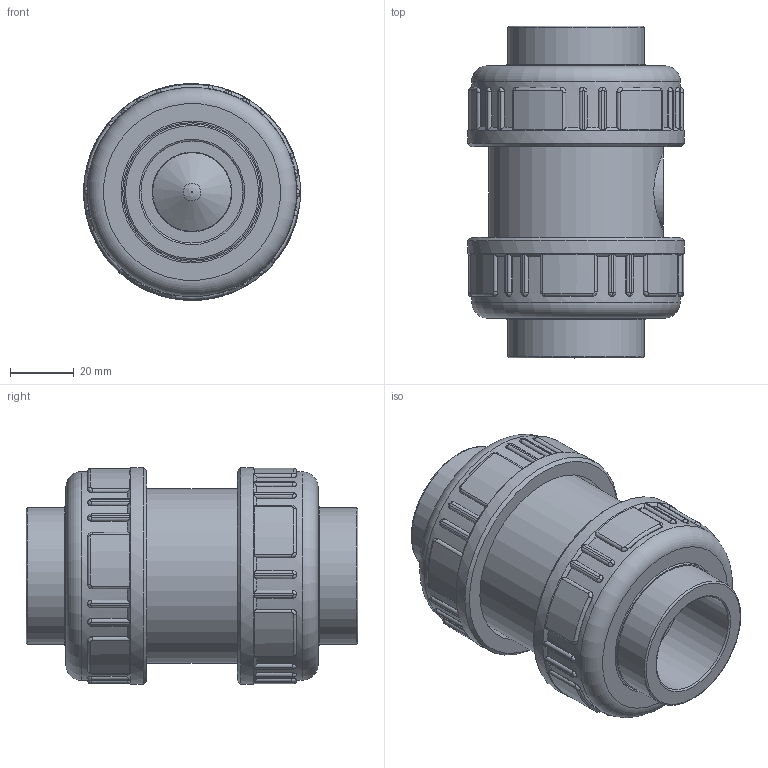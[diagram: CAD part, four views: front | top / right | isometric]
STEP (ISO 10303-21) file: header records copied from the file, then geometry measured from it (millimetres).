
FILE_DESCRIPTION(/* description */ (''),/* implementation_level */ '2;1');
FILE_NAME(/* name */ 'C:\Users\POLYPIPE\Desktop\DATASET INVENTOR\LIBRERIA EFFAST\3D_VALVOLE\3D_VALVOLE NON RITORNO\3D_CV\3D_CDRCVD\3D_CDRCVD0320.stp',/* time_stamp */ '2018-01-24T16:09:03+01:00',/* author */ ('POLYPIPE'),/* organization */ (''),/* preprocessor_version */ 'ST-DEVELOPER v16.1',/* originating_system */ 'Autodesk Inventor 2016',/* authorisation */ '');
FILE_SCHEMA (('CONFIG_CONTROL_DESIGN'));
Length unit declared in the file: centimetre
Products named in the file (1): 3D_CDRCVD0320
Bounding box: 67.99 x 104 x 67.98 mm (x, y, z)
Volume: 174007.6 mm3; surface area: 73594.3 mm2
Topology: 2 solids, 4 shells, 561 faces, 1439 edges, 908 vertices
Faces by surface type: plane 207, cylinder 153, bspline 147, torus 44, cone 10
Full cylindrical faces by diameter (mm): 25 x2, 25.6 x1, 25.8 x2, 30.8 x2, 32 x2, 33 x1, 35.4 x1, 38 x2, 39.4 x1, 40.2 x2, 42.7 x2, 43.5 x2, 44.5 x2, 44.6 x1, 45.5 x1, 45.8 x1, 46 x1, 51 x2, 54.7 x1, 56.7 x2, 65.5 x2, 68 x2
Entity records: 61996 total; most frequent: CARTESIAN_POINT 48891, ORIENTED_EDGE 2708, DIRECTION 2330, EDGE_CURVE 1354, AXIS2_PLACEMENT_3D 897, VERTEX_POINT 893, EDGE_LOOP 665, STYLED_ITEM 562
